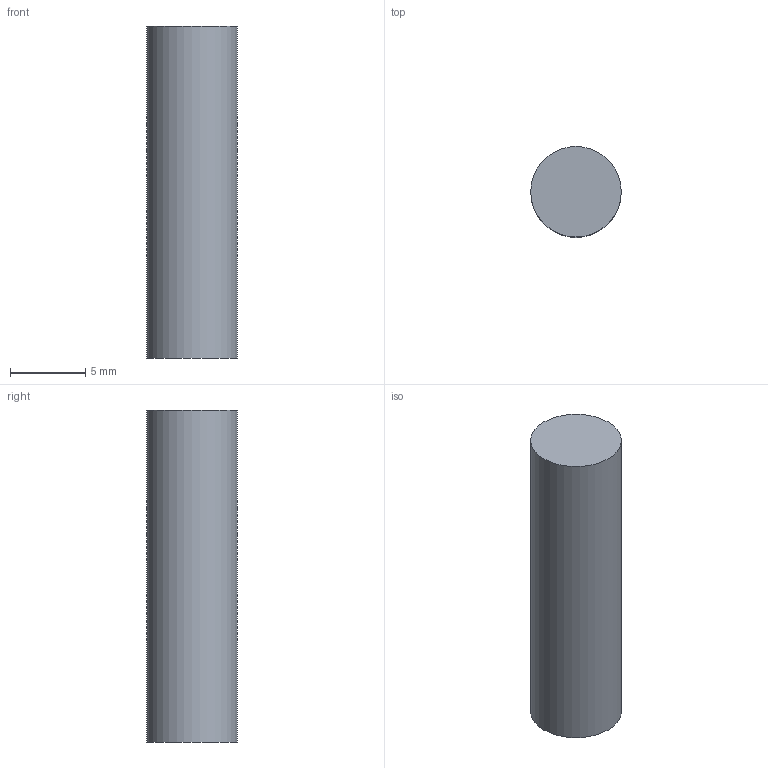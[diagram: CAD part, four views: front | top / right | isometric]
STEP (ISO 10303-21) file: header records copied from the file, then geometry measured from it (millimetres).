
FILE_DESCRIPTION(('Open CASCADE Model'),'2;1');
FILE_NAME('Open CASCADE Shape Model','2026-10-04T02:31:39',('Author'),( 'Open CASCADE'),'Open CASCADE STEP processor 8.0','Open CASCADE 8.0' ,'Unknown');
FILE_SCHEMA(('AUTOMOTIVE_DESIGN { 1 0 10303 214 1 1 1 1 }'));
Length unit declared in the file: millimetre
Products named in the file (1): Open CASCADE STEP translator 8.0 184
Bounding box: 6 x 6 x 22 mm (x, y, z)
Volume: 622 mm3; surface area: 471.2 mm2
Topology: 1 solids, 1 shells, 3 faces, 3 edges, 2 vertices
Faces by surface type: plane 2, cylinder 1
Full cylindrical faces by diameter (mm): 6 x1
Entity records: 108 total; most frequent: DIRECTION 19, CARTESIAN_POINT 15, AXIS2_PLACEMENT_3D 6, ORIENTED_EDGE 6, PCURVE 6, DEFINITIONAL_REPRESENTATION 6, LINE 5, VECTOR 5
